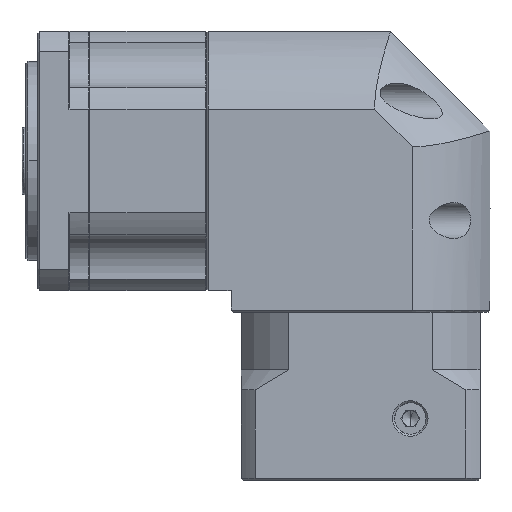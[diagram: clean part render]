
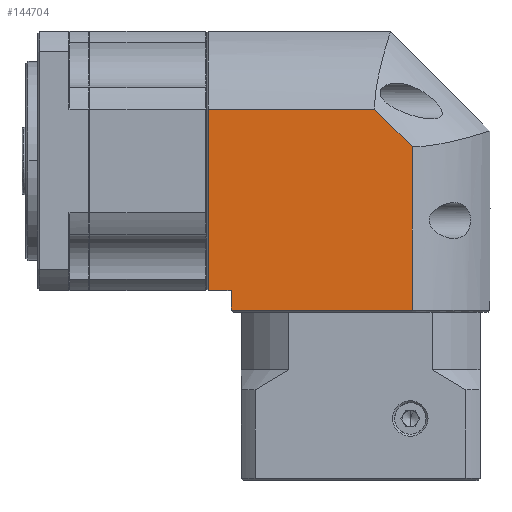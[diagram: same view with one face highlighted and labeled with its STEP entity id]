
A CAD part, top view. The second image highlights one B-rep face of the part: STEP entity #144704.
In plain terms, the highlighted planar face has unit normal (0, 0, 1).
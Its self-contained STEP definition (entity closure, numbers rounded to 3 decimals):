
#2750 = CARTESIAN_POINT ( 'NONE',  ( -46.76, -48.075, -87.08 ) ) ;
#3453 = EDGE_CURVE ( 'NONE', #27218, #47228, #35887, .T. ) ;
#3975 = ORIENTED_EDGE ( 'NONE', *, *, #3453, .T. ) ;
#5382 = LINE ( 'NONE', #85963, #127449 ) ;
#5513 = ORIENTED_EDGE ( 'NONE', *, *, #123060, .T. ) ;
#7263 = ORIENTED_EDGE ( 'NONE', *, *, #128916, .T. ) ;
#10156 = LINE ( 'NONE', #91995, #38609 ) ;
#11662 = PLANE ( 'NONE',  #113793 ) ;
#18939 = DIRECTION ( 'NONE',  ( 0., -1., 0. ) ) ;
#22562 = VERTEX_POINT ( 'NONE', #43333 ) ;
#26604 = CARTESIAN_POINT ( 'NONE',  ( -5.068, -2.584, -87.08 ) ) ;
#27218 = VERTEX_POINT ( 'NONE', #26604 ) ;
#28493 = CARTESIAN_POINT ( 'NONE',  ( 4.43, -53.075, -87.08 ) ) ;
#30713 = ORIENTED_EDGE ( 'NONE', *, *, #63814, .T. ) ;
#32045 = VECTOR ( 'NONE', #96303, 1000. ) ;
#32392 = LINE ( 'NONE', #86561, #93504 ) ;
#33730 = CARTESIAN_POINT ( 'NONE',  ( -41.06, -48.075, -87.08 ) ) ;
#35887 = LINE ( 'NONE', #47163, #32045 ) ;
#38542 = DIRECTION ( 'NONE',  ( 1., 0., 0. ) ) ;
#38609 = VECTOR ( 'NONE', #18939, 1000. ) ;
#38621 = CARTESIAN_POINT ( 'NONE',  ( -46.76, -48.075, -87.08 ) ) ;
#43333 = CARTESIAN_POINT ( 'NONE',  ( 4.43, -12.082, -87.08 ) ) ;
#47163 = CARTESIAN_POINT ( 'NONE',  ( 23.94, -2.584, -87.08 ) ) ;
#47228 = VERTEX_POINT ( 'NONE', #151757 ) ;
#49635 = DIRECTION ( 'NONE',  ( 1., 0., 0. ) ) ;
#50779 = EDGE_CURVE ( 'NONE', #22562, #27218, #83875, .T. ) ;
#51840 = ORIENTED_EDGE ( 'NONE', *, *, #142002, .T. ) ;
#57785 = VERTEX_POINT ( 'NONE', #28493 ) ;
#59141 = CARTESIAN_POINT ( 'NONE',  ( -366.372, 358.72, -87.08 ) ) ;
#60574 = CARTESIAN_POINT ( 'NONE',  ( -51.06, 16.925, -87.08 ) ) ;
#62520 = FACE_OUTER_BOUND ( 'NONE', #110851, .T. ) ;
#63814 = EDGE_CURVE ( 'NONE', #57785, #22562, #100608, .T. ) ;
#72843 = DIRECTION ( 'NONE',  ( -1., 0., 0. ) ) ;
#75622 = DIRECTION ( 'NONE',  ( 0., -1., 0. ) ) ;
#82965 = DIRECTION ( 'NONE',  ( 0., 1., 0. ) ) ;
#83875 = LINE ( 'NONE', #59141, #112565 ) ;
#85963 = CARTESIAN_POINT ( 'NONE',  ( -51.06, -48.075, -87.08 ) ) ;
#86561 = CARTESIAN_POINT ( 'NONE',  ( -51.06, -53.075, -87.08 ) ) ;
#86757 = CARTESIAN_POINT ( 'NONE',  ( -41.06, -53.075, -87.08 ) ) ;
#90813 = LINE ( 'NONE', #2750, #119534 ) ;
#91995 = CARTESIAN_POINT ( 'NONE',  ( -41.06, 16.925, -87.08 ) ) ;
#93504 = VECTOR ( 'NONE', #38542, 1000. ) ;
#96303 = DIRECTION ( 'NONE',  ( -1., 0., 0. ) ) ;
#98518 = VERTEX_POINT ( 'NONE', #86757 ) ;
#100608 = LINE ( 'NONE', #156113, #115923 ) ;
#103901 = VERTEX_POINT ( 'NONE', #38621 ) ;
#104636 = ORIENTED_EDGE ( 'NONE', *, *, #138455, .T. ) ;
#105576 = VERTEX_POINT ( 'NONE', #33730 ) ;
#110851 = EDGE_LOOP ( 'NONE', ( #30713, #152122, #3975, #5513, #51840, #104636, #7263 ) ) ;
#112565 = VECTOR ( 'NONE', #156810, 1000. ) ;
#113793 = AXIS2_PLACEMENT_3D ( 'NONE', #60574, #145945, #72843 ) ;
#115923 = VECTOR ( 'NONE', #82965, 1000. ) ;
#119534 = VECTOR ( 'NONE', #75622, 1000. ) ;
#123060 = EDGE_CURVE ( 'NONE', #47228, #103901, #90813, .T. ) ;
#127449 = VECTOR ( 'NONE', #49635, 1000. ) ;
#128916 = EDGE_CURVE ( 'NONE', #98518, #57785, #32392, .T. ) ;
#138455 = EDGE_CURVE ( 'NONE', #105576, #98518, #10156, .T. ) ;
#142002 = EDGE_CURVE ( 'NONE', #103901, #105576, #5382, .T. ) ;
#144704 = ADVANCED_FACE ( 'NONE', ( #62520 ), #11662, .F. ) ;
#145945 = DIRECTION ( 'NONE',  ( 0., 0., -1. ) ) ;
#151757 = CARTESIAN_POINT ( 'NONE',  ( -46.76, -2.584, -87.08 ) ) ;
#152122 = ORIENTED_EDGE ( 'NONE', *, *, #50779, .T. ) ;
#156113 = CARTESIAN_POINT ( 'NONE',  ( 4.43, 16.925, -87.08 ) ) ;
#156810 = DIRECTION ( 'NONE',  ( -0.707, 0.707, 0. ) ) ;
